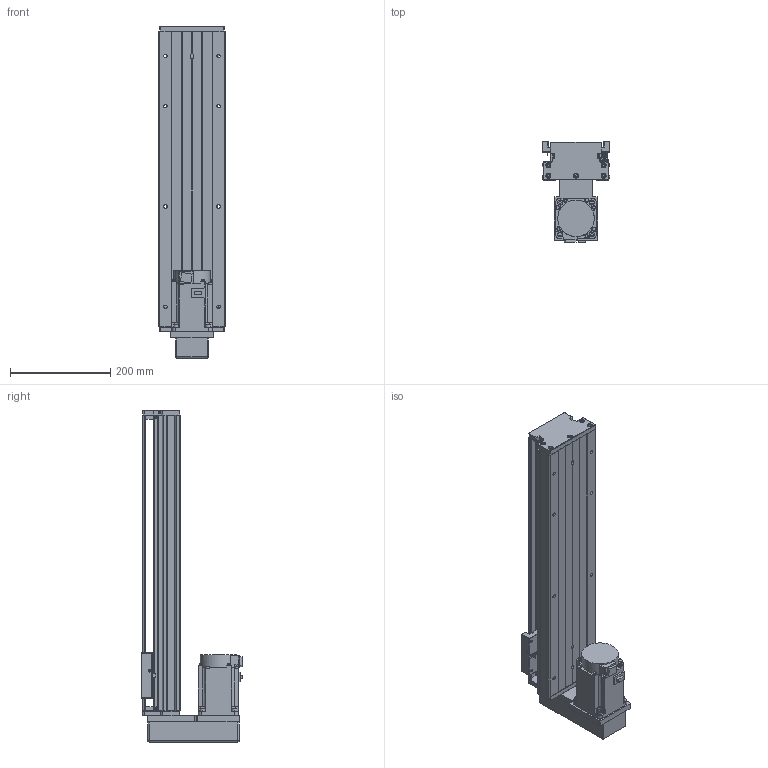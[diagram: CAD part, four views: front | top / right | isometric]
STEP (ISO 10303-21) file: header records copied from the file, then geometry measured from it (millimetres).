
FILE_DESCRIPTION (( 'STEP AP203' ), '1' );
FILE_NAME ('KTH130-450-BM-M75-C4.step', '2023-06-30T04:37:31', ( '微软用户' ), ( '微软中国' ), 'SwSTEP 2.0', 'SolidWorks 2020', '' );
FILE_SCHEMA (( 'CONFIG_CONTROL_DESIGN' ));
Length unit declared in the file: millimetre
Products named in the file (18): EE_SX911P_R; CTHA86-015-3_CTHA86-015-4; KTH130-004; CTHA60-016; CTHA86-035; KTH130-005; GBT 70.1-M3℅5; KTH130-450-BM-M75-C4; GB1155-6X6; GBT77-2000 M3×3; GBT70.1 M5℅16; す晦芛蹟隊 M3℅5; GBT 70.2-M3¡Á5_M3¡Á6; GBT 70.3-M3℅8; GTH14-001_450; CTHA60-017; hg-kn73j_-s100; KTH130-002_KTH130-002
Assembly tree (49 placements, depth 2):
  KTH130-450-BM-M75-C4
    GTH14-001_450
    KTH130-002_KTH130-002
    KTH130-004
    KTH130-005
    GB1155-6X6  x2
    GBT70.1 M5℅16  x10
    GBT 70.2-M3¡Á5_M3¡Á6  x4
    CTHA60-017  x3
    EE_SX911P_R  x3
    CTHA60-016  x2
    GBT 70.1-M3℅5  x6
    GBT77-2000 M3×3  x6
    す晦芛蹟隊 M3℅5  x2
    GBT 70.3-M3℅8  x4
    hg-kn73j_-s100
    CTHA86-015-3_CTHA86-015-4
    CTHA86-035
Bounding box: 135 x 202.8 x 662 mm (x, y, z)
Volume: 4697467.8 mm3; surface area: 679309.6 mm2
Topology: 52 solids, 52 shells, 2182 faces, 5292 edges, 3311 vertices
Faces by surface type: plane 1206, cylinder 622, cone 238, torus 100, sphere 16
Entity records: 39637 total; most frequent: CARTESIAN_POINT 6672, DIRECTION 6517, ORIENTED_EDGE 6088, EDGE_CURVE 3044, AXIS2_PLACEMENT_3D 2274, LINE 1969, VECTOR 1969, VERTEX_POINT 1945
